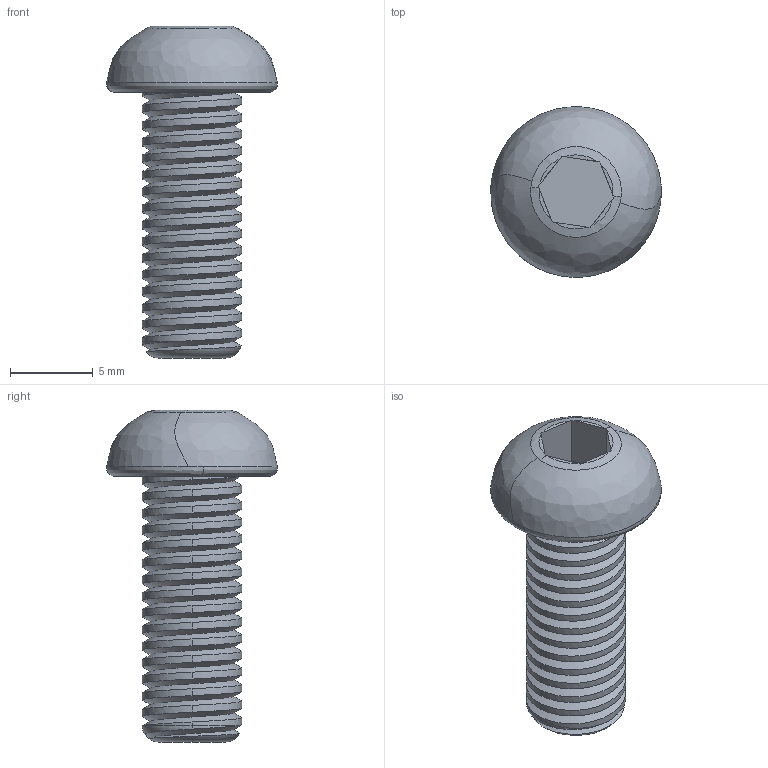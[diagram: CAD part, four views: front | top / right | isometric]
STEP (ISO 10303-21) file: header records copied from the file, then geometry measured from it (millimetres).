
FILE_DESCRIPTION (( 'STEP AP203' ), '1' );
FILE_NAME ('147-CE-CB-M6.STEP', '2015-07-09T09:04:36', ( '' ), ( '' ), 'SwSTEP 2.0', 'SolidWorks 2013', '' );
FILE_SCHEMA (( 'CONFIG_CONTROL_DESIGN' ));
Length unit declared in the file: millimetre
Products named in the file (1): 147-CE-CB-M6
Bounding box: 10.27 x 10.27 x 20 mm (x, y, z)
Volume: 620.4 mm3; surface area: 721.1 mm2
Topology: 1 solids, 1 shells, 61 faces, 173 edges, 115 vertices
Faces by surface type: cylinder 32, plane 17, bspline 9, torus 3
Entity records: 5081 total; most frequent: CARTESIAN_POINT 3705, ORIENTED_EDGE 346, DIRECTION 190, EDGE_CURVE 173, VERTEX_POINT 115, AXIS2_PLACEMENT_3D 67, EDGE_LOOP 62, ADVANCED_FACE 61
